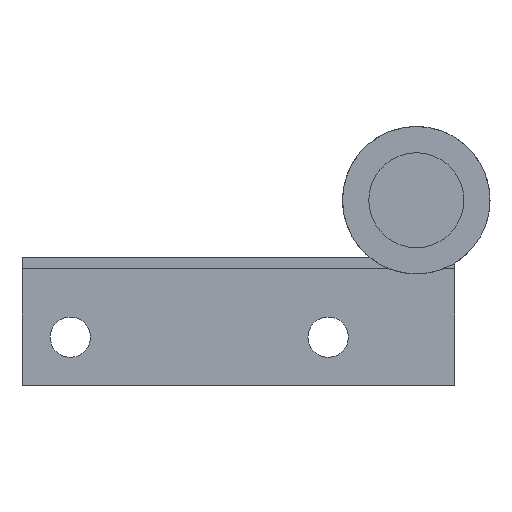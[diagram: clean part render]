
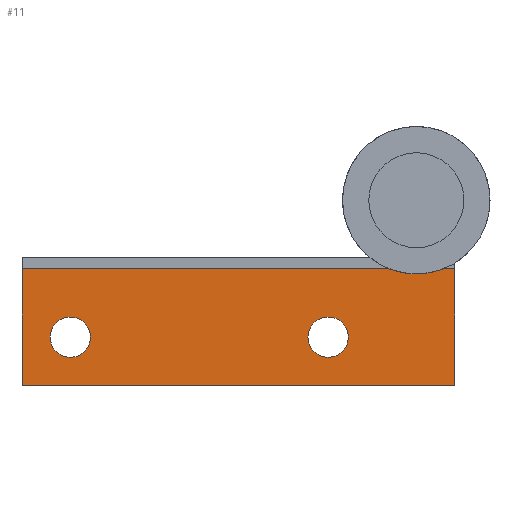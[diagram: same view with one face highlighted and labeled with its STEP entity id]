
A CAD part, front view. The second image highlights one B-rep face of the part: STEP entity #11.
In plain terms, the highlighted planar face has unit normal (0, -1, 0).
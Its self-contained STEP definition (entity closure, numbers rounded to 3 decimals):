
#11 = ADVANCED_FACE ( 'NONE', ( #951, #790, #949 ), #1030, .F. ) ;
#132 = CARTESIAN_POINT ( 'NONE',  ( -45.45, 333.2, -17. ) ) ;
#134 = CARTESIAN_POINT ( 'NONE',  ( -40.45, 333.2, -17. ) ) ;
#136 = CARTESIAN_POINT ( 'NONE',  ( -13.45, 333.2, -17. ) ) ;
#153 = CARTESIAN_POINT ( 'NONE',  ( -8.45, 333.2, -17. ) ) ;
#171 = CARTESIAN_POINT ( 'NONE',  ( -42.95, 333.2, -17. ) ) ;
#175 = DIRECTION ( 'NONE',  ( 0., 1., 0. ) ) ;
#176 = DIRECTION ( 'NONE',  ( 1., 0., 0. ) ) ;
#182 = CARTESIAN_POINT ( 'NONE',  ( 4.75, 333.2, -23. ) ) ;
#183 = DIRECTION ( 'NONE',  ( 0., 0., -1. ) ) ;
#191 = CARTESIAN_POINT ( 'NONE',  ( 9.15, 333.2, -8.5 ) ) ;
#192 = DIRECTION ( 'NONE',  ( -1., 0., 0. ) ) ;
#196 = CARTESIAN_POINT ( 'NONE',  ( 9.15, 333.2, -23. ) ) ;
#202 = DIRECTION ( 'NONE',  ( -1., 0., 0. ) ) ;
#227 = CARTESIAN_POINT ( 'NONE',  ( -48.95, 333.2, -23. ) ) ;
#228 = DIRECTION ( 'NONE',  ( 0., 0., -1. ) ) ;
#263 = CARTESIAN_POINT ( 'NONE',  ( -10.95, 333.2, -17. ) ) ;
#266 = CARTESIAN_POINT ( 'NONE',  ( -10.95, 333.2, -17. ) ) ;
#267 = DIRECTION ( 'NONE',  ( 0., 1., 0. ) ) ;
#268 = DIRECTION ( 'NONE',  ( 1., 0., 0. ) ) ;
#275 = DIRECTION ( 'NONE',  ( 0., 1., 0. ) ) ;
#276 = DIRECTION ( 'NONE',  ( 1., 0., 0. ) ) ;
#296 = CARTESIAN_POINT ( 'NONE',  ( -42.95, 333.2, -17. ) ) ;
#304 = DIRECTION ( 'NONE',  ( 0., 1., 0. ) ) ;
#305 = DIRECTION ( 'NONE',  ( 1., 0., 0. ) ) ;
#322 = CARTESIAN_POINT ( 'NONE',  ( 4.75, 333.2, -23. ) ) ;
#327 = CARTESIAN_POINT ( 'NONE',  ( 4.75, 333.2, -8.5 ) ) ;
#337 = CARTESIAN_POINT ( 'NONE',  ( -48.95, 333.2, -23. ) ) ;
#348 = CARTESIAN_POINT ( 'NONE',  ( -48.95, 333.2, -8.5 ) ) ;
#387 = VERTEX_POINT ( 'NONE', #132 ) ;
#389 = VERTEX_POINT ( 'NONE', #134 ) ;
#391 = VERTEX_POINT ( 'NONE', #136 ) ;
#411 = VERTEX_POINT ( 'NONE', #153 ) ;
#423 = EDGE_CURVE ( 'NONE', #389, #387, #706, .T. ) ;
#430 = AXIS2_PLACEMENT_3D ( 'NONE', #296, #304, #305 ) ;
#432 = EDGE_CURVE ( 'NONE', #614, #608, #694, .T. ) ;
#440 = AXIS2_PLACEMENT_3D ( 'NONE', #263, #275, #276 ) ;
#442 = EDGE_CURVE ( 'NONE', #614, #1068, #723, .T. ) ;
#451 = AXIS2_PLACEMENT_3D ( 'NONE', #266, #267, #268 ) ;
#453 = EDGE_CURVE ( 'NONE', #608, #1060, #761, .T. ) ;
#485 = EDGE_CURVE ( 'NONE', #1068, #1060, #686, .T. ) ;
#497 = AXIS2_PLACEMENT_3D ( 'NONE', #1017, #1040, #1032 ) ;
#500 = AXIS2_PLACEMENT_3D ( 'NONE', #171, #175, #176 ) ;
#578 = EDGE_CURVE ( 'NONE', #411, #391, #671, .T. ) ;
#581 = EDGE_CURVE ( 'NONE', #391, #411, #657, .T. ) ;
#593 = EDGE_CURVE ( 'NONE', #387, #389, #637, .T. ) ;
#608 = VERTEX_POINT ( 'NONE', #322 ) ;
#614 = VERTEX_POINT ( 'NONE', #327 ) ;
#637 = CIRCLE ( 'NONE', #430, 2.5 ) ;
#657 = CIRCLE ( 'NONE', #440, 2.5 ) ;
#671 = CIRCLE ( 'NONE', #451, 2.5 ) ;
#686 = LINE ( 'NONE', #227, #687 ) ;
#687 = VECTOR ( 'NONE', #228, 1000. ) ;
#694 = LINE ( 'NONE', #182, #757 ) ;
#706 = CIRCLE ( 'NONE', #500, 2.5 ) ;
#723 = LINE ( 'NONE', #191, #769 ) ;
#724 = VECTOR ( 'NONE', #202, 1000. ) ;
#757 = VECTOR ( 'NONE', #183, 1000. ) ;
#761 = LINE ( 'NONE', #196, #724 ) ;
#769 = VECTOR ( 'NONE', #192, 1000. ) ;
#790 = FACE_BOUND ( 'NONE', #917, .T. ) ;
#796 = EDGE_LOOP ( 'NONE', ( #971, #937, #979, #964 ) ) ;
#835 = ORIENTED_EDGE ( 'NONE', *, *, #593, .T. ) ;
#860 = ORIENTED_EDGE ( 'NONE', *, *, #578, .T. ) ;
#861 = ORIENTED_EDGE ( 'NONE', *, *, #423, .T. ) ;
#865 = ORIENTED_EDGE ( 'NONE', *, *, #581, .T. ) ;
#896 = EDGE_LOOP ( 'NONE', ( #865, #860 ) ) ;
#917 = EDGE_LOOP ( 'NONE', ( #835, #861 ) ) ;
#937 = ORIENTED_EDGE ( 'NONE', *, *, #485, .T. ) ;
#949 = FACE_OUTER_BOUND ( 'NONE', #796, .T. ) ;
#951 = FACE_BOUND ( 'NONE', #896, .T. ) ;
#964 = ORIENTED_EDGE ( 'NONE', *, *, #432, .F. ) ;
#971 = ORIENTED_EDGE ( 'NONE', *, *, #442, .T. ) ;
#979 = ORIENTED_EDGE ( 'NONE', *, *, #453, .F. ) ;
#1017 = CARTESIAN_POINT ( 'NONE',  ( 9.15, 333.2, -23. ) ) ;
#1030 = PLANE ( 'NONE',  #497 ) ;
#1032 = DIRECTION ( 'NONE',  ( 1., 0., 0. ) ) ;
#1040 = DIRECTION ( 'NONE',  ( 0., 1., 0. ) ) ;
#1060 = VERTEX_POINT ( 'NONE', #337 ) ;
#1068 = VERTEX_POINT ( 'NONE', #348 ) ;
